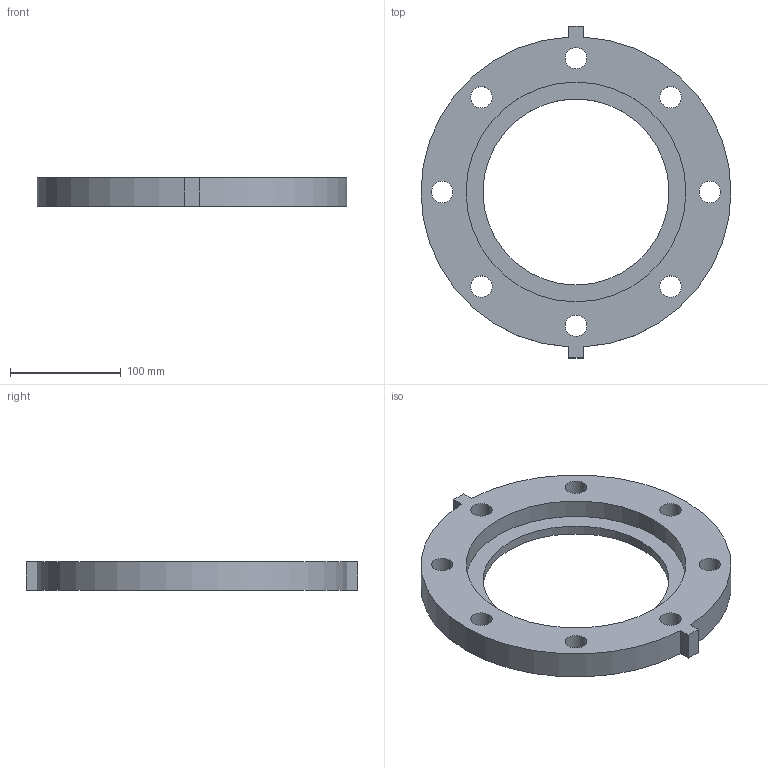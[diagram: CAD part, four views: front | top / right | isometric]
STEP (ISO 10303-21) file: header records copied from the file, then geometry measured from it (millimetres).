
FILE_DESCRIPTION(/* description */ ('VIC FLANGE ADAPTER STYLE 441','CAx-IF Rec.Pracs.---Representation and Presentation of Product Manufacturing Information (PMI)---4.0---2014-10-13'),/* implementation_level */ '2;1');
FILE_NAME(/* name */ 'C:\Users\kkamble\AppData\Roaming\Autodesk\ApplicationPlugins\Back Up\Victaulic_SS-OGS_Flange Adapter_CL 150_Style 441 (OGSxFLG)\Victaulic_SS-OGS_Flange Adapter_CL 150_Style 441 (OGSxFLG)_6 (150).stp',/* time_stamp */ '2020-08-27T09:29:51+06:00',/* author */ ('mchristi'),/* organization */ ('Victaulic'),/* preprocessor_version */ 'ST-DEVELOPER v17.2',/* originating_system */ 'Autodesk Inventor 2019',/* authorisation */ '');
FILE_SCHEMA (('AP242_MANAGED_MODEL_BASED_3D_ENGINEERING_MIM_LF { 1 0 10303 442 1 1 4 }'));
Length unit declared in the file: inch
Products named in the file (1): 441-06.0
Bounding box: 279.4 x 299.21 x 25.4 mm (x, y, z)
Volume: 795365.4 mm3; surface area: 124939.4 mm2
Topology: 1 solids, 1 shells, 21 faces, 54 edges, 36 vertices
Faces by surface type: cylinder 12, plane 9
Full cylindrical faces by diameter (mm): 19.304 x8, 167.64 x1, 198.12 x1
Entity records: 841 total; most frequent: DIRECTION 148, CARTESIAN_POINT 129, ORIENTED_EDGE 108, AXIS2_PLACEMENT_3D 59, EDGE_CURVE 54, EDGE_LOOP 40, VERTEX_POINT 36, LINE 30
